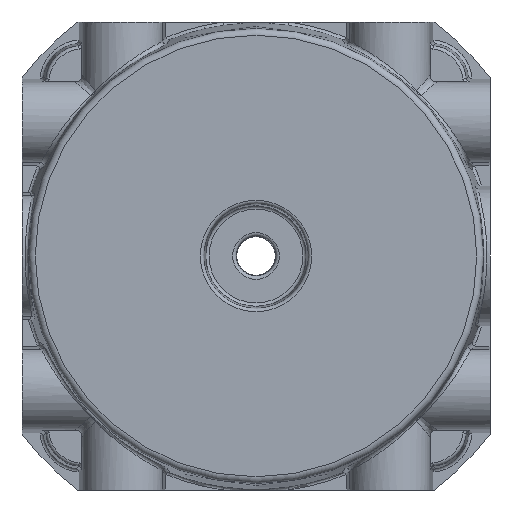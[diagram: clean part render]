
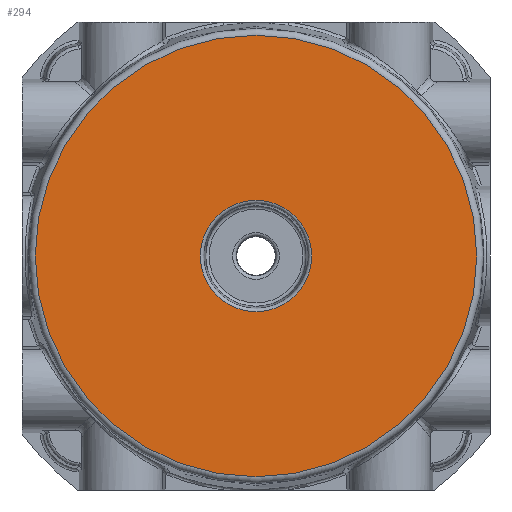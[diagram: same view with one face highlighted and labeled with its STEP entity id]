
A CAD part, front view. The second image highlights one B-rep face of the part: STEP entity #294.
In plain terms, the highlighted planar face has unit normal (0, -1, 0).
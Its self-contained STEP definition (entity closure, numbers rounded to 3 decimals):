
#294=ADVANCED_FACE('',(#4831,#4833),#4835,.F.);
#4831=FACE_BOUND('',#4832,.T.);
#4832=EDGE_LOOP('',(#6476));
#4833=FACE_BOUND('',#4834,.T.);
#4834=EDGE_LOOP('',(#6477));
#4835=PLANE('',#4836);
#4836=AXIS2_PLACEMENT_3D('',#4837,#4838,#4839);
#4837=CARTESIAN_POINT('',(0.,-2.,0.));
#4838=DIRECTION('',(0.,1.,0.));
#4839=DIRECTION('',(1.,0.,0.));
#6476=ORIENTED_EDGE('',*,*,#7081,.F.);
#6477=ORIENTED_EDGE('',*,*,#7245,.T.);
#7081=EDGE_CURVE('',#8094,#8094,#8095,.T.);
#7245=EDGE_CURVE('',#8327,#8327,#8328,.F.);
#8094=VERTEX_POINT('',#14292);
#8095=CIRCLE('',#14293,33.022);
#8327=VERTEX_POINT('',#16685);
#8328=CIRCLE('',#16686,8.332);
#14292=CARTESIAN_POINT('',(33.022,-2.,0.));
#14293=AXIS2_PLACEMENT_3D('',#14294,#14295,#14296);
#14294=CARTESIAN_POINT('',(0.,-2.,0.));
#14295=DIRECTION('',(0.,1.,0.));
#14296=DIRECTION('',(1.,0.,0.));
#16685=CARTESIAN_POINT('',(0.,-2.,8.332));
#16686=AXIS2_PLACEMENT_3D('',#16687,#16688,#16689);
#16687=CARTESIAN_POINT('',(0.,-2.,0.));
#16688=DIRECTION('',(0.,-1.,0.));
#16689=DIRECTION('',(0.,0.,1.));
